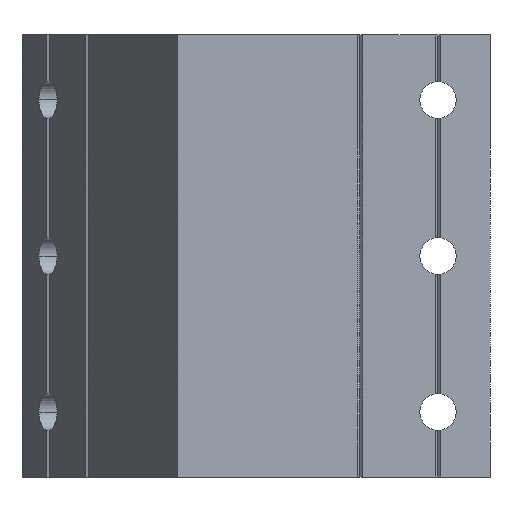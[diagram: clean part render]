
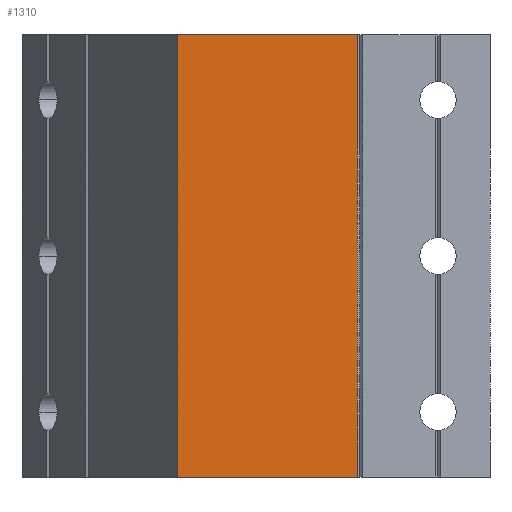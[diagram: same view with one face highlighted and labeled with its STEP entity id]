
A CAD part, front view. The second image highlights one B-rep face of the part: STEP entity #1310.
In plain terms, the highlighted planar face has unit normal (0, -1, 0).
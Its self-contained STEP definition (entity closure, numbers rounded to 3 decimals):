
#78 = DIRECTION ( 'NONE',  ( 1., 0., 0. ) ) ;
#89 = CARTESIAN_POINT ( 'NONE',  ( 0., 0., 42.5 ) ) ;
#133 = CARTESIAN_POINT ( 'NONE',  ( 0., 0., -42.5 ) ) ;
#210 = LINE ( 'NONE', #2361, #1762 ) ;
#214 = DIRECTION ( 'NONE',  ( 0., 1., 0. ) ) ;
#228 = VERTEX_POINT ( 'NONE', #1360 ) ;
#229 = DIRECTION ( 'NONE',  ( 0., 0., 1. ) ) ;
#232 = ORIENTED_EDGE ( 'NONE', *, *, #459, .T. ) ;
#244 = VERTEX_POINT ( 'NONE', #89 ) ;
#459 = EDGE_CURVE ( 'NONE', #1290, #228, #972, .T. ) ;
#494 = FACE_OUTER_BOUND ( 'NONE', #2279, .T. ) ;
#523 = CARTESIAN_POINT ( 'NONE',  ( 0., 0., 42.5 ) ) ;
#709 = VECTOR ( 'NONE', #908, 1000. ) ;
#887 = EDGE_CURVE ( 'NONE', #244, #2099, #210, .T. ) ;
#908 = DIRECTION ( 'NONE',  ( 0., 0., -1. ) ) ;
#928 = AXIS2_PLACEMENT_3D ( 'NONE', #1690, #214, #229 ) ;
#941 = ORIENTED_EDGE ( 'NONE', *, *, #887, .F. ) ;
#969 = ORIENTED_EDGE ( 'NONE', *, *, #2077, .T. ) ;
#972 = LINE ( 'NONE', #133, #2510 ) ;
#1024 = CARTESIAN_POINT ( 'NONE',  ( 0., 0., -42.5 ) ) ;
#1232 = ORIENTED_EDGE ( 'NONE', *, *, #1794, .T. ) ;
#1290 = VERTEX_POINT ( 'NONE', #1024 ) ;
#1310 = ADVANCED_FACE ( 'NONE', ( #494 ), #2490, .F. ) ;
#1360 = CARTESIAN_POINT ( 'NONE',  ( 34.5, 0., -42.5 ) ) ;
#1690 = CARTESIAN_POINT ( 'NONE',  ( 0., 0., 42.5 ) ) ;
#1735 = VECTOR ( 'NONE', #2097, 1000. ) ;
#1761 = DIRECTION ( 'NONE',  ( 1., 0., 0. ) ) ;
#1762 = VECTOR ( 'NONE', #1761, 1000. ) ;
#1794 = EDGE_CURVE ( 'NONE', #244, #1290, #2380, .T. ) ;
#2077 = EDGE_CURVE ( 'NONE', #228, #2099, #2411, .T. ) ;
#2097 = DIRECTION ( 'NONE',  ( 0., 0., 1. ) ) ;
#2099 = VERTEX_POINT ( 'NONE', #2198 ) ;
#2198 = CARTESIAN_POINT ( 'NONE',  ( 34.5, 0., 42.5 ) ) ;
#2224 = CARTESIAN_POINT ( 'NONE',  ( 34.5, 0., -43.618 ) ) ;
#2279 = EDGE_LOOP ( 'NONE', ( #969, #941, #1232, #232 ) ) ;
#2361 = CARTESIAN_POINT ( 'NONE',  ( 0., 0., 42.5 ) ) ;
#2380 = LINE ( 'NONE', #523, #709 ) ;
#2411 = LINE ( 'NONE', #2224, #1735 ) ;
#2490 = PLANE ( 'NONE',  #928 ) ;
#2510 = VECTOR ( 'NONE', #78, 1000. ) ;
